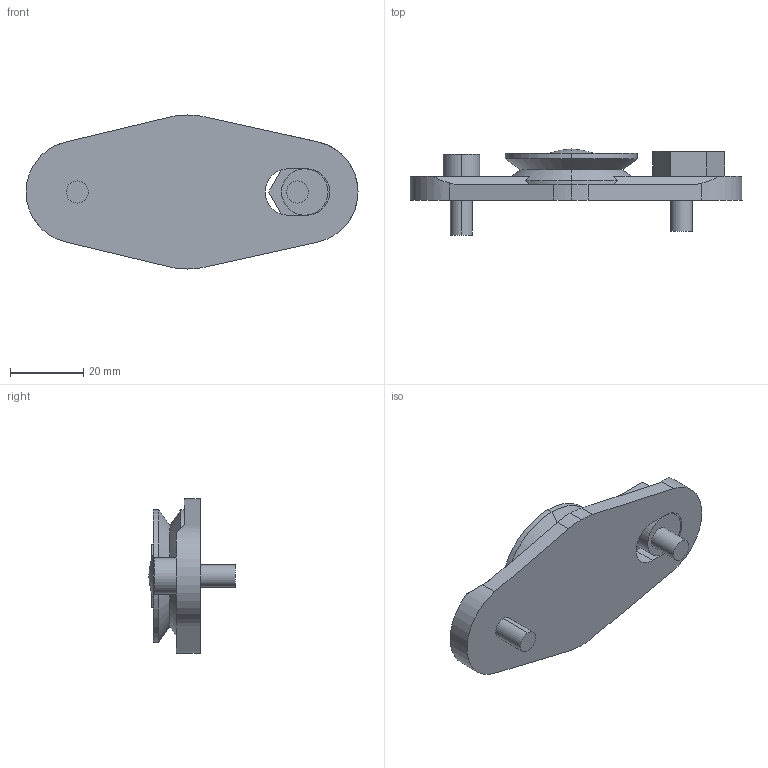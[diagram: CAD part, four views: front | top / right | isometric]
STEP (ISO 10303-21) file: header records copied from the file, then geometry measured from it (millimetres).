
FILE_DESCRIPTION(('STEP AP203'),'1');
FILE_NAME('gbhj_360_e_ns.stp','2021-09-29T05:44:46',('TraceParts'),('TraceParts S.A.'),'Spatial InterOp 3D',' ',' ');
FILE_SCHEMA(('CONFIG_CONTROL_DESIGN'));
Length unit declared in the file: millimetre
Products named in the file (1): 1
Bounding box: 90.5 x 23.5 x 42 mm (x, y, z)
Volume: 25425.1 mm3; surface area: 9959.2 mm2
Topology: 2 solids, 2 shells, 67 faces, 161 edges, 106 vertices
Faces by surface type: plane 39, cylinder 22, cone 4, sphere 2
Entity records: 2009 total; most frequent: CARTESIAN_POINT 354, DIRECTION 345, ORIENTED_EDGE 322, EDGE_CURVE 161, AXIS2_PLACEMENT_3D 121, VERTEX_POINT 106, LINE 103, VECTOR 103
